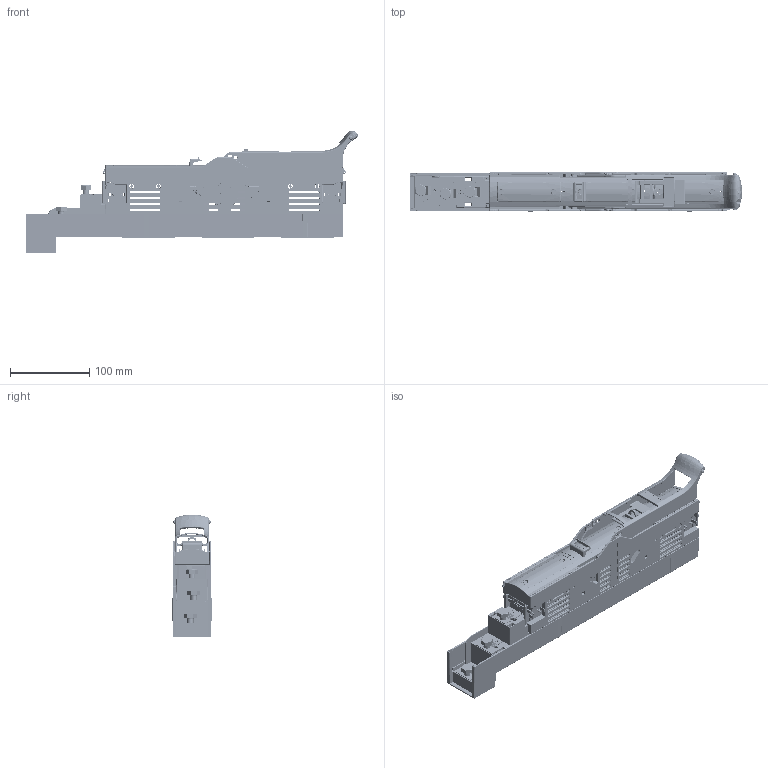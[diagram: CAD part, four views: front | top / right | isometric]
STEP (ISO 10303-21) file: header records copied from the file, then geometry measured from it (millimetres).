
FILE_DESCRIPTION (( 'STEP AP214' ), '1' );
FILE_NAME ('FSD00-33K-F__2.step', '2014-11-13T07:37:04', ( '' ), ( '' ), 'SwSTEP 2.0', 'SolidWorks 2011', '' );
FILE_SCHEMA (( 'AUTOMOTIVE_DESIGN' ));
Length unit declared in the file: millimetre
Products named in the file (1): FSD00-33K-F__2
Bounding box: 418.43 x 49.8 x 154.65 mm (x, y, z)
Volume: 418205.5 mm3; surface area: 471412.8 mm2
Topology: 20 solids, 20 shells, 9627 faces, 26056 edges, 16247 vertices
Faces by surface type: plane 4276, cylinder 2721, cone 964, torus 821, bspline 618, sphere 227
Entity records: 458335 total; most frequent: CARTESIAN_POINT 124695, ORIENTED_EDGE 51542, DIRECTION 42047, EDGE_CURVE 25771, VERTEX_POINT 16149, LINE 15029, VECTOR 15029, AXIS2_PLACEMENT_3D 13509
